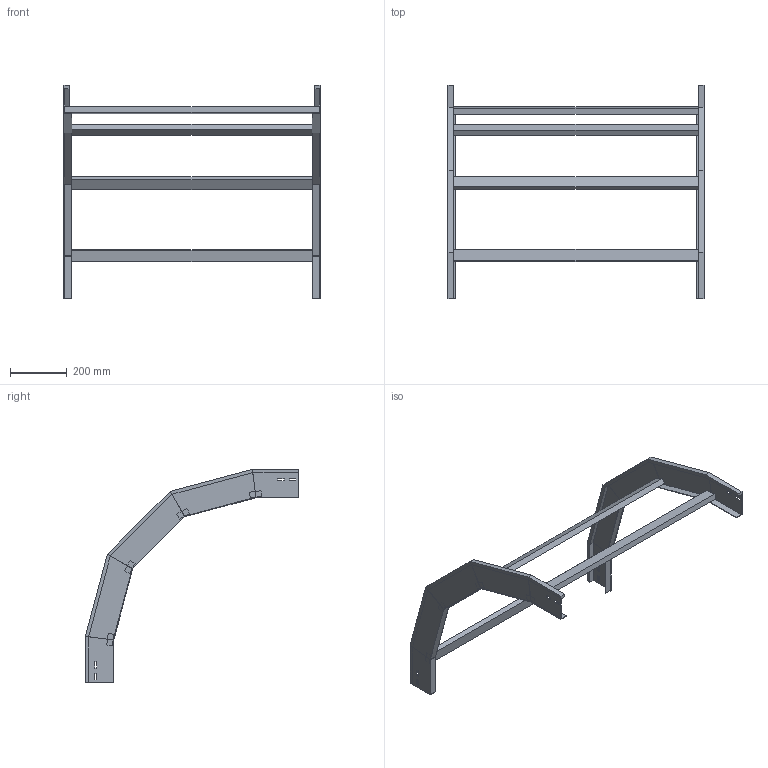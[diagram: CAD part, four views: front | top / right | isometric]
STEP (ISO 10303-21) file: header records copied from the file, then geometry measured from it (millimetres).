
FILE_DESCRIPTION (( 'STEP AP214' ), '1' );
FILE_NAME ('33B5D900.step', '2025-02-21T15:01:39', ( '' ), ( '' ), 'SwSTEP 2.0', 'SolidWorks 2023', '' );
FILE_SCHEMA (( 'AUTOMOTIVE_DESIGN' ));
Length unit declared in the file: millimetre
Products named in the file (3): TRAVERSINO_900; 33B5D900; LONGH.DISCESA_90°_H100_R500
Assembly tree (6 placements, depth 2):
  33B5D900
    LONGH.DISCESA_90°_H100_R500  x2
    TRAVERSINO_900  x4
Bounding box: 900 x 750.35 x 750.35 mm (x, y, z)
Volume: 3942468.1 mm3; surface area: 1098803.4 mm2
Topology: 6 solids, 6 shells, 140 faces, 320 edges, 192 vertices
Faces by surface type: plane 140
Entity records: 1872 total; most frequent: CARTESIAN_POINT 309, ORIENTED_EDGE 296, DIRECTION 294, LINE 148, VECTOR 148, EDGE_CURVE 148, VERTEX_POINT 88, AXIS2_PLACEMENT_3D 73
